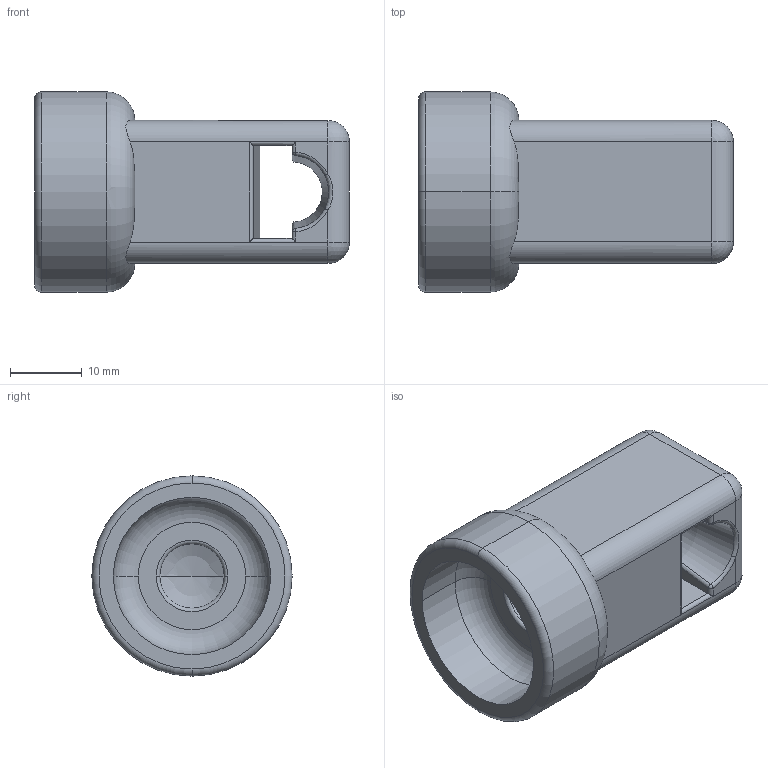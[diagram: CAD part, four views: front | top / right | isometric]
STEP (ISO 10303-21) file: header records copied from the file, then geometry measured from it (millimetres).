
FILE_DESCRIPTION((''),'2;1');
FILE_NAME('TRM_SRF33-52','2014-03-20T',('Administrator'),(''),'PRO/ENGINEER BY PARAMETRIC TECHNOLOGY CORPORATION, 2008380','PRO/ENGINEER BY PARAMETRIC TECHNOLOGY CORPORATION, 2008380','');
FILE_SCHEMA(('CONFIG_CONTROL_DESIGN'));
Length unit declared in the file: millimetre
Products named in the file (1): TRM_SRF33-52
Bounding box: 44 x 28 x 28 mm (x, y, z)
Volume: 13315.3 mm3; surface area: 6044.3 mm2
Topology: 1 solids, 1 shells, 71 faces, 183 edges, 105 vertices
Faces by surface type: cylinder 26, plane 18, torus 13, sphere 10, bspline 4
Entity records: 2510 total; most frequent: CARTESIAN_POINT 830, DIRECTION 347, ORIENTED_EDGE 346, EDGE_CURVE 173, AXIS2_PLACEMENT_3D 145, VERTEX_POINT 105, CIRCLE 78, EDGE_LOOP 74
